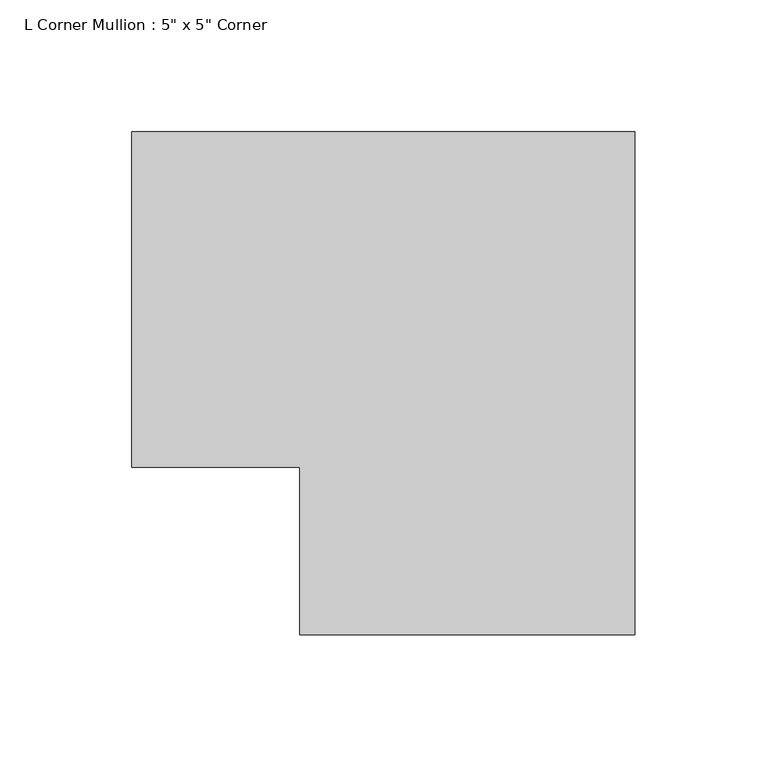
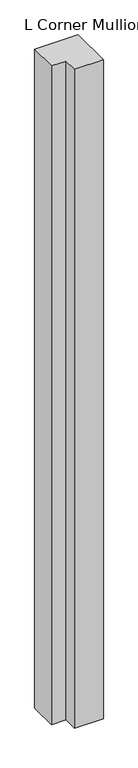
"""IFC4 building model written with IfcOpenShell, lengths in millimetres: member geometry."""

from ifc_helpers import new_model, si_unit, frame, origin, place, context, project, spatial, polyline, outline, extrude, source, transform, mapped, element, save


def member_217554f7(model_context):
    return source(origin(), model_context, "Body", "SweptSolid", [
        extrude(outline(polyline([(-63.5, -127.0), (-63.5, -63.5), (-127.0, -63.5), (-127.0, 63.5), (63.5, 63.5), (63.5, -127.0), (-63.5, -127.0)])), frame((0.0, 0.0, -3048.0), z_axis=(0.0, 0.0, 1.0), x_axis=(1.0, 0.0, 0.0)), (0.0, 0.0, 1.0), 3048.0),
    ])


if __name__ == "__main__":
    model = new_model("IFC4")
    model_context = context("Model", 3, world=origin())
    ifc_project = project(units=[si_unit("LENGTHUNIT", "METRE", prefix="MILLI")], contexts=[model_context])
    site = spatial("IfcSite", under=ifc_project)
    building = spatial("IfcBuilding", under=site)
    placement = place(None, origin())
    member_shape = member_217554f7(model_context)
    element("IfcMember", 1, ObjectType="L Corner Mullion : 5\" x 5\" Corner", at=placement, inside=building, context=model_context, shape_type="MappedRepresentation", body=[
        mapped(member_shape, transform((0.0, 0.0, 0.0), x_axis=(1.0, 0.0, 0.0), y_axis=(0.0, 1.0, 0.0), z_axis=(0.0, 0.0, 1.0))),
    ])
    save(model, "model.ifc")
